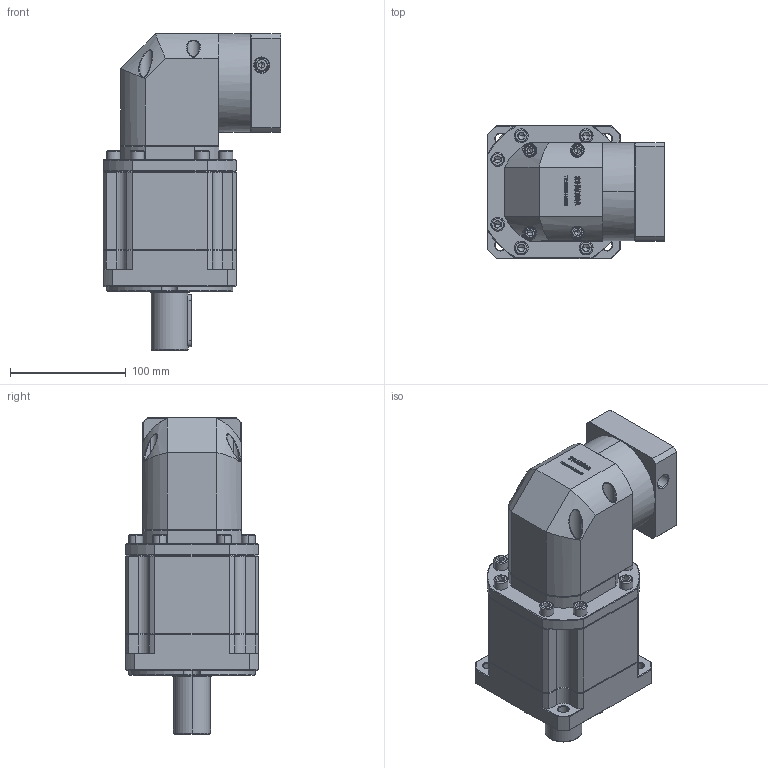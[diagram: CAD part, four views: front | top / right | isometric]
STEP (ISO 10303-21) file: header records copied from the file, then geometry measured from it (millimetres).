
FILE_DESCRIPTION (( 'STEP AP214' ), '1' );
FILE_NAME ('ZBR115A-D32-L3-19-80-100-M6.step', '2023-03-02T14:38:29', ( '' ), ( 'Microsoft' ), 'SwSTEP 2.0', 'SolidWorks 2016', '' );
FILE_SCHEMA (( 'AUTOMOTIVE_DESIGN' ));
Length unit declared in the file: millimetre
Products named in the file (1): ZBR115A-D32-L3-19-80-100-M6
Bounding box: 153.6 x 115 x 273.5 mm (x, y, z)
Volume: 2286924.9 mm3; surface area: 190475.5 mm2
Topology: 6 solids, 6 shells, 3202 faces, 8406 edges, 5357 vertices
Faces by surface type: plane 1699, bspline 633, cylinder 478, cone 378, torus 14
Entity records: 171241 total; most frequent: CARTESIAN_POINT 62228, ORIENTED_EDGE 16704, DIRECTION 12884, EDGE_CURVE 8352, LINE 5592, VECTOR 5592, VERTEX_POINT 5357, AXIS2_PLACEMENT_3D 3646
